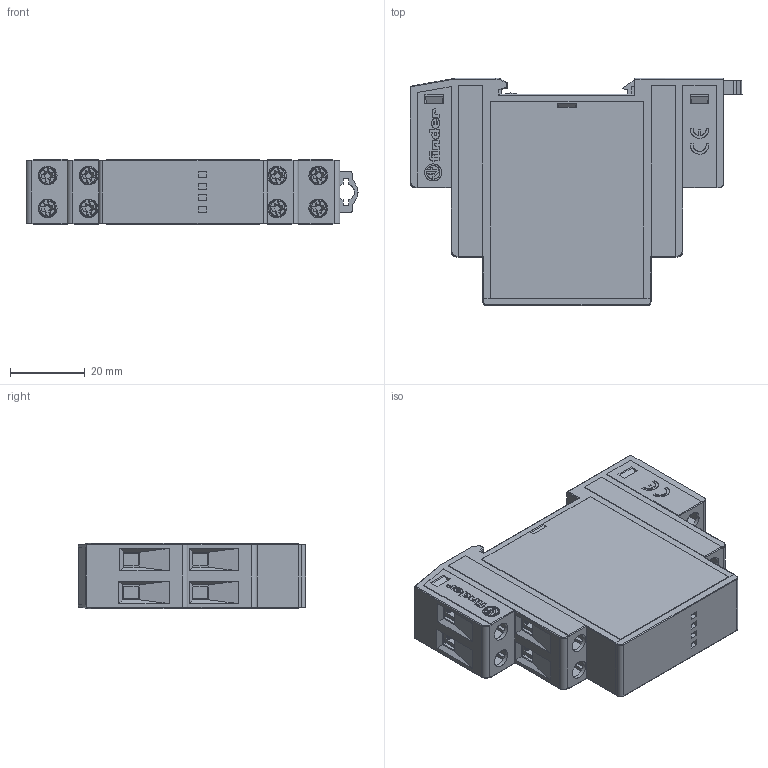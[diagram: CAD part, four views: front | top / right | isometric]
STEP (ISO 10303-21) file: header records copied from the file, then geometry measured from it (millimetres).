
FILE_DESCRIPTION(('STEP AP214'),'2;1');
FILE_NAME('13_12---catalogo_mancano viti-morsetti_OK.stp','2011-02-17T09:53:56',(''),(''),'2007.1.106','THINKDESIGN','');
FILE_SCHEMA(('AUTOMOTIVE_DESIGN'));
Products named in the file (1): None
Bounding box: 88.85 x 60.8 x 17.5 mm (x, y, z)
Surface area: 21648.1 mm2 (no closed solid volume)
Topology: 0 solids, 0 shells, 1423 faces, 8940 edges, 8928 vertices
Faces by surface type: plane 1152, bspline 142, cylinder 129
Full cylindrical faces by diameter (mm): 3 x10, 5 x8
Entity records: 89714 total; most frequent: CARTESIAN_POINT 26957, DIRECTION 10817, COMPOSITE_CURVE_SEGMENT 8940, TRIMMED_CURVE 7971, VECTOR 7751, LINE 7751, AXIS2_PLACEMENT_3D 1533, OUTER_BOUNDARY_CURVE 1423
